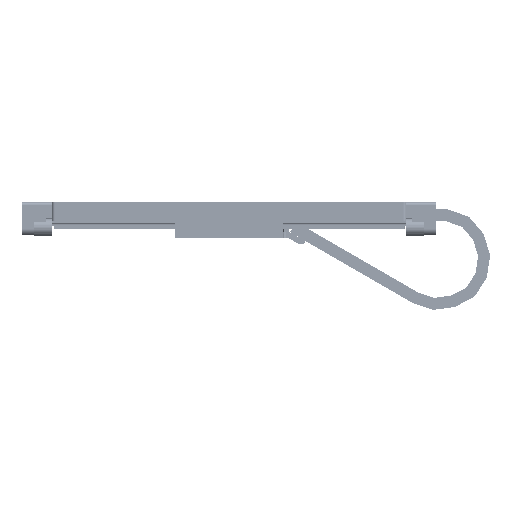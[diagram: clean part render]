
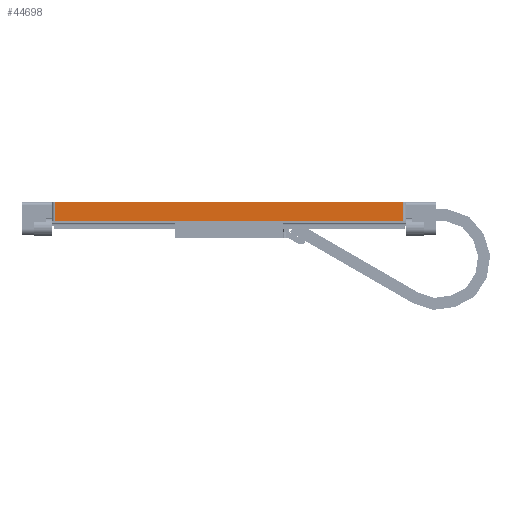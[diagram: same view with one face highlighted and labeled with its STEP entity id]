
A CAD part, left-side view. The second image highlights one B-rep face of the part: STEP entity #44698.
In plain terms, the highlighted planar face has unit normal (-1, 0, 0).
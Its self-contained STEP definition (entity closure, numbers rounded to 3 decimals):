
#381 = CARTESIAN_POINT ( 'NONE',  ( -41., -147.5, 0. ) ) ;
#1120 = EDGE_LOOP ( 'NONE', ( #29014, #72669, #4596, #50503 ) ) ;
#4596 = ORIENTED_EDGE ( 'NONE', *, *, #75659, .T. ) ;
#4788 = CARTESIAN_POINT ( 'NONE',  ( -41., 147.5, -15.5 ) ) ;
#8891 = CARTESIAN_POINT ( 'NONE',  ( -41., -147.5, 0. ) ) ;
#9075 = CARTESIAN_POINT ( 'NONE',  ( -41., -147.5, -15.5 ) ) ;
#10363 = CARTESIAN_POINT ( 'NONE',  ( -41., -150., 0. ) ) ;
#12155 = EDGE_CURVE ( 'NONE', #40816, #54373, #16339, .T. ) ;
#15269 = LINE ( 'NONE', #381, #42553 ) ;
#16339 = LINE ( 'NONE', #22011, #16593 ) ;
#16593 = VECTOR ( 'NONE', #57180, 1000. ) ;
#18109 = VERTEX_POINT ( 'NONE', #8891 ) ;
#19533 = CARTESIAN_POINT ( 'NONE',  ( -41., 147.5, 0. ) ) ;
#21399 = VECTOR ( 'NONE', #72175, 1000. ) ;
#22011 = CARTESIAN_POINT ( 'NONE',  ( -41., 147.5, -15.5 ) ) ;
#29014 = ORIENTED_EDGE ( 'NONE', *, *, #65590, .F. ) ;
#29094 = DIRECTION ( 'NONE',  ( 0., 0., 1. ) ) ;
#31028 = AXIS2_PLACEMENT_3D ( 'NONE', #10363, #51979, #71300 ) ;
#32263 = FACE_OUTER_BOUND ( 'NONE', #1120, .T. ) ;
#33097 = DIRECTION ( 'NONE',  ( 0., 1., 0. ) ) ;
#40816 = VERTEX_POINT ( 'NONE', #19533 ) ;
#42553 = VECTOR ( 'NONE', #29094, 1000. ) ;
#44698 = ADVANCED_FACE ( 'NONE', ( #32263 ), #53484, .T. ) ;
#44920 = CARTESIAN_POINT ( 'NONE',  ( -41., -150., -15.5 ) ) ;
#45241 = VECTOR ( 'NONE', #33097, 1000. ) ;
#46994 = EDGE_CURVE ( 'NONE', #66195, #18109, #15269, .T. ) ;
#50503 = ORIENTED_EDGE ( 'NONE', *, *, #12155, .T. ) ;
#51979 = DIRECTION ( 'NONE',  ( -1., 0., 0. ) ) ;
#53484 = PLANE ( 'NONE',  #31028 ) ;
#54373 = VERTEX_POINT ( 'NONE', #4788 ) ;
#57180 = DIRECTION ( 'NONE',  ( 0., 0., -1. ) ) ;
#65590 = EDGE_CURVE ( 'NONE', #66195, #54373, #71007, .T. ) ;
#66195 = VERTEX_POINT ( 'NONE', #9075 ) ;
#71007 = LINE ( 'NONE', #44920, #45241 ) ;
#71300 = DIRECTION ( 'NONE',  ( 0., 0., 1. ) ) ;
#72175 = DIRECTION ( 'NONE',  ( 0., 1., 0. ) ) ;
#72669 = ORIENTED_EDGE ( 'NONE', *, *, #46994, .T. ) ;
#73723 = CARTESIAN_POINT ( 'NONE',  ( -41., -150., 0. ) ) ;
#73735 = LINE ( 'NONE', #73723, #21399 ) ;
#75659 = EDGE_CURVE ( 'NONE', #18109, #40816, #73735, .T. ) ;
